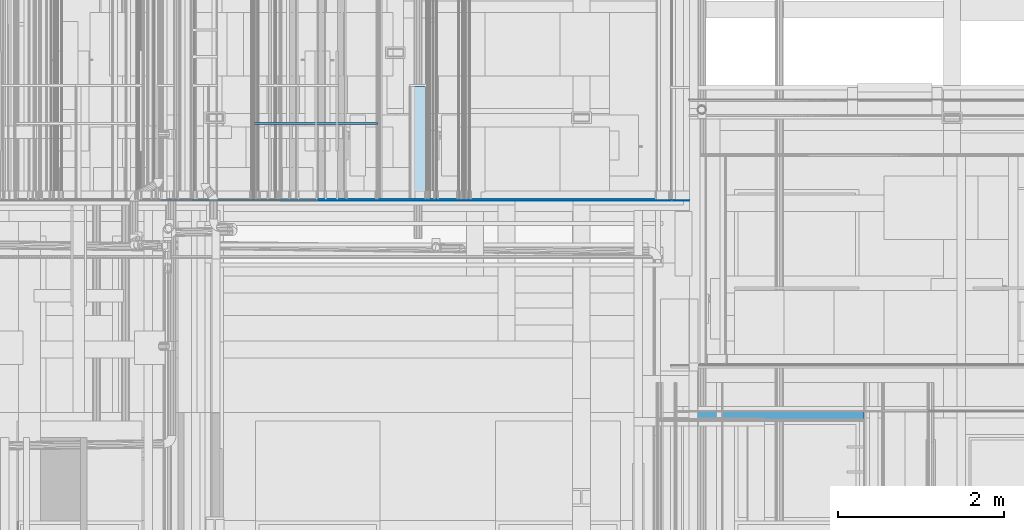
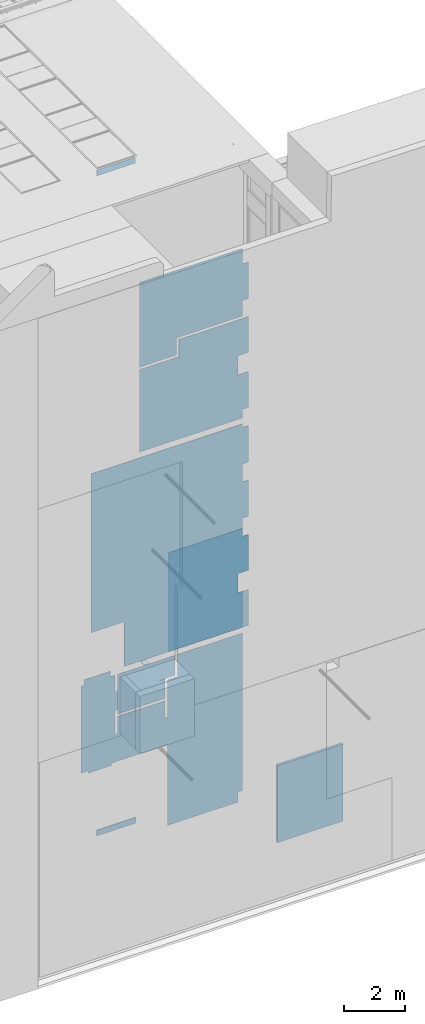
# One storey, part 246 of 583: 12 slabs.
"""IFC2X3 building model written with IfcOpenShell, lengths in metres."""

from ifc_helpers import new_model, entity, si_unit, converted_unit, derived_unit, money_unit, direction, frame, origin_with_axes, place, context, subcontext, project, spatial, faceted_brep, material, type_object, element, save


model = new_model("IFC2X3")

# Units and contexts
model_context = context("Model", 3, precision=1e-05, world=origin_with_axes(), true_north=direction((0.0, 1.0)))
body_context = subcontext(model_context, "Body", "Model", "MODEL_VIEW", scale=1.0)
ifc_project = project(units=[si_unit("LENGTHUNIT", "METRE"), si_unit("AREAUNIT", "SQUARE_METRE"), si_unit("VOLUMEUNIT", "CUBIC_METRE"), si_unit("ABSORBEDDOSEUNIT", "GRAY"), si_unit("AMOUNTOFSUBSTANCEUNIT", "MOLE"), si_unit("DOSEEQUIVALENTUNIT", "SIEVERT"), si_unit("ELECTRICCAPACITANCEUNIT", "FARAD"), si_unit("ELECTRICCHARGEUNIT", "COULOMB"), si_unit("ELECTRICCONDUCTANCEUNIT", "SIEMENS"), si_unit("ELECTRICCURRENTUNIT", "AMPERE"), si_unit("ELECTRICRESISTANCEUNIT", "OHM"), si_unit("ELECTRICVOLTAGEUNIT", "VOLT"), si_unit("ENERGYUNIT", "JOULE"), si_unit("FORCEUNIT", "NEWTON"), si_unit("FREQUENCYUNIT", "HERTZ"), si_unit("ILLUMINANCEUNIT", "LUX"), si_unit("INDUCTANCEUNIT", "HENRY"), si_unit("LUMINOUSFLUXUNIT", "LUMEN"), si_unit("LUMINOUSINTENSITYUNIT", "CANDELA"), si_unit("MAGNETICFLUXDENSITYUNIT", "TESLA"), si_unit("MAGNETICFLUXUNIT", "WEBER"), si_unit("MASSUNIT", "GRAM"), converted_unit("PLANEANGLEUNIT", "degree", entity("IfcReal", 0.0174532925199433), si_unit("PLANEANGLEUNIT", "RADIAN"), dimensions=[0, 0, 0, 0, 0, 0, 0]), si_unit("POWERUNIT", "WATT"), si_unit("PRESSUREUNIT", "PASCAL"), si_unit("RADIOACTIVITYUNIT", "BECQUEREL"), si_unit("SOLIDANGLEUNIT", "STERADIAN"), si_unit("THERMODYNAMICTEMPERATUREUNIT", "KELVIN"), si_unit("TIMEUNIT", "SECOND"), derived_unit("ACCELERATIONUNIT", [(si_unit("LENGTHUNIT", "METRE"), 1), (si_unit("TIMEUNIT", "SECOND"), -2)]), derived_unit("ANGULARVELOCITYUNIT", [(converted_unit("PLANEANGLEUNIT", "degree", entity("IfcReal", 0.0174532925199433), si_unit("PLANEANGLEUNIT", "RADIAN"), dimensions=[0, 0, 0, 0, 0, 0, 0]), 1), (si_unit("TIMEUNIT", "SECOND"), -1)]), derived_unit("CURVATUREUNIT", [(converted_unit("PLANEANGLEUNIT", "degree", entity("IfcReal", 0.0174532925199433), si_unit("PLANEANGLEUNIT", "RADIAN"), dimensions=[0, 0, 0, 0, 0, 0, 0]), 1), (si_unit("LENGTHUNIT", "METRE"), -1)]), derived_unit("DYNAMICVISCOSITYUNIT", [(si_unit("PRESSUREUNIT", "PASCAL"), 1), (si_unit("TIMEUNIT", "SECOND"), 1)]), derived_unit("HEATFLUXDENSITYUNIT", [(si_unit("POWERUNIT", "WATT"), 1), (si_unit("LENGTHUNIT", "METRE"), -2)]), derived_unit("HEATINGVALUEUNIT", [(si_unit("ENERGYUNIT", "JOULE"), 1), (si_unit("MASSUNIT", "GRAM"), -1)]), derived_unit("INTEGERCOUNTRATEUNIT", [(si_unit("TIMEUNIT", "SECOND"), -1)]), derived_unit("IONCONCENTRATIONUNIT", [(si_unit("MASSUNIT", "GRAM"), 1), (si_unit("VOLUMEUNIT", "CUBIC_METRE"), -1)]), derived_unit("ISOTHERMALMOISTURECAPACITYUNIT", [(si_unit("VOLUMEUNIT", "CUBIC_METRE"), 1), (si_unit("MASSUNIT", "GRAM"), -1)]), derived_unit("KINEMATICVISCOSITYUNIT", [(si_unit("AREAUNIT", "SQUARE_METRE"), 1), (si_unit("TIMEUNIT", "SECOND"), -1)]), derived_unit("LINEARFORCEUNIT", [(si_unit("FORCEUNIT", "NEWTON"), 1), (si_unit("LENGTHUNIT", "METRE"), -1)]), derived_unit("LINEARMOMENTUNIT", [(si_unit("FORCEUNIT", "NEWTON"), 1), (si_unit("LENGTHUNIT", "METRE"), -1)]), derived_unit("LINEARSTIFFNESSUNIT", [(si_unit("FORCEUNIT", "NEWTON"), 1), (si_unit("LENGTHUNIT", "METRE"), -1)]), derived_unit("LINEARVELOCITYUNIT", [(si_unit("LENGTHUNIT", "METRE"), 1), (si_unit("TIMEUNIT", "SECOND"), -1)]), derived_unit("LUMINOUSINTENSITYDISTRIBUTIONUNIT", [(si_unit("LUMINOUSINTENSITYUNIT", "CANDELA"), 1), (si_unit("LUMINOUSFLUXUNIT", "LUMEN"), -1)]), derived_unit("MASSDENSITYUNIT", [(si_unit("MASSUNIT", "GRAM"), 1), (si_unit("VOLUMEUNIT", "CUBIC_METRE"), -1)]), derived_unit("MASSFLOWRATEUNIT", [(si_unit("MASSUNIT", "GRAM"), 1), (si_unit("TIMEUNIT", "SECOND"), -1)]), derived_unit("MASSPERLENGTHUNIT", [(si_unit("MASSUNIT", "GRAM"), 1), (si_unit("LENGTHUNIT", "METRE"), -1)]), derived_unit("MODULUSOFELASTICITYUNIT", [(si_unit("FORCEUNIT", "NEWTON"), 1), (si_unit("AREAUNIT", "SQUARE_METRE"), -1)]), derived_unit("MODULUSOFLINEARSUBGRADEREACTIONUNIT", [(si_unit("FORCEUNIT", "NEWTON"), 1), (si_unit("LENGTHUNIT", "METRE"), -2)]), derived_unit("MODULUSOFROTATIONALSUBGRADEREACTIONUNIT", [(si_unit("FORCEUNIT", "NEWTON"), 1), (si_unit("LENGTHUNIT", "METRE"), 1)]), derived_unit("MODULUSOFSUBGRADEREACTIONUNIT", [(si_unit("FORCEUNIT", "NEWTON"), 1), (si_unit("VOLUMEUNIT", "CUBIC_METRE"), -1)]), derived_unit("MOISTUREDIFFUSIVITYUNIT", [(si_unit("VOLUMEUNIT", "CUBIC_METRE"), 1), (si_unit("TIMEUNIT", "SECOND"), -1)]), derived_unit("MOLECULARWEIGHTUNIT", [(si_unit("MASSUNIT", "GRAM"), 1), (si_unit("AMOUNTOFSUBSTANCEUNIT", "MOLE"), -1)]), derived_unit("PLANARFORCEUNIT", [(si_unit("FORCEUNIT", "NEWTON"), 1), (si_unit("LENGTHUNIT", "METRE"), -2)]), derived_unit("ROTATIONALFREQUENCYUNIT", [(si_unit("TIMEUNIT", "SECOND"), -1)]), derived_unit("ROTATIONALMASSUNIT", [(si_unit("MASSUNIT", "GRAM"), 1), (si_unit("LENGTHUNIT", "METRE"), 2)]), derived_unit("ROTATIONALSTIFFNESSUNIT", [(si_unit("FORCEUNIT", "NEWTON"), 1), (si_unit("LENGTHUNIT", "METRE"), 1), (converted_unit("PLANEANGLEUNIT", "degree", entity("IfcReal", 0.0174532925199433), si_unit("PLANEANGLEUNIT", "RADIAN"), dimensions=[0, 0, 0, 0, 0, 0, 0]), -1)]), derived_unit("SECTIONAREAINTEGRALUNIT", [(si_unit("LENGTHUNIT", "METRE"), 5)]), derived_unit("SECTIONMODULUSUNIT", [(si_unit("LENGTHUNIT", "METRE"), 3)]), derived_unit("SHEARMODULUSUNIT", [(si_unit("FORCEUNIT", "NEWTON"), 1), (si_unit("AREAUNIT", "SQUARE_METRE"), -1)]), derived_unit("SOUNDPOWERUNIT", [(si_unit("ENERGYUNIT", "JOULE"), 1), (si_unit("TIMEUNIT", "SECOND"), -1)]), derived_unit("SPECIFICHEATCAPACITYUNIT", [(si_unit("FORCEUNIT", "NEWTON"), 1), (si_unit("MASSUNIT", "GRAM"), -1), (si_unit("THERMODYNAMICTEMPERATUREUNIT", "KELVIN"), -1)]), derived_unit("TEMPERATUREGRADIENTUNIT", [(si_unit("THERMODYNAMICTEMPERATUREUNIT", "KELVIN"), 1), (si_unit("LENGTHUNIT", "METRE"), -1)]), derived_unit("THERMALADMITTANCEUNIT", [(si_unit("POWERUNIT", "WATT"), 1), (si_unit("AREAUNIT", "SQUARE_METRE"), -1), (si_unit("THERMODYNAMICTEMPERATUREUNIT", "KELVIN"), -1)]), derived_unit("THERMALCONDUCTANCEUNIT", [(si_unit("POWERUNIT", "WATT"), 1), (si_unit("LENGTHUNIT", "METRE"), -1), (si_unit("THERMODYNAMICTEMPERATUREUNIT", "KELVIN"), -1)]), derived_unit("THERMALEXPANSIONCOEFFICIENTUNIT", [(si_unit("THERMODYNAMICTEMPERATUREUNIT", "KELVIN"), -1)]), derived_unit("THERMALRESISTANCEUNIT", [(si_unit("AREAUNIT", "SQUARE_METRE"), 1), (si_unit("POWERUNIT", "WATT"), -1)]), derived_unit("THERMALTRANSMITTANCEUNIT", [(si_unit("POWERUNIT", "WATT"), 1), (si_unit("AREAUNIT", "SQUARE_METRE"), -1), (si_unit("THERMODYNAMICTEMPERATUREUNIT", "KELVIN"), -1)]), derived_unit("TORQUEUNIT", [(si_unit("FORCEUNIT", "NEWTON"), 1), (si_unit("LENGTHUNIT", "METRE"), 1)]), derived_unit("VAPORPERMEABILITYUNIT", [(si_unit("MASSUNIT", "GRAM"), 1), (si_unit("TIMEUNIT", "SECOND"), -1)]), derived_unit("VOLUMETRICFLOWRATEUNIT", [(si_unit("VOLUMEUNIT", "CUBIC_METRE"), 1), (si_unit("TIMEUNIT", "SECOND"), -1)]), derived_unit("WARPINGCONSTANTUNIT", [(si_unit("LENGTHUNIT", "METRE"), 6)]), derived_unit("WARPINGMOMENTUNIT", [(si_unit("FORCEUNIT", "NEWTON"), 1), (si_unit("LENGTHUNIT", "METRE"), 2)]), money_unit("GBP")], contexts=[model_context])

# Site, building, storey
site_placement = place(None, origin_with_axes())
site = spatial("IfcSite", under=ifc_project, at=site_placement, Name="Site", CompositionType="ELEMENT")
building_placement = place(site_placement, origin_with_axes())
building = spatial("IfcBuilding", under=site, at=building_placement, Name="Building01", CompositionType="ELEMENT")
storey_placement = place(building_placement, frame((0.0, 0.0, 20.78), z_axis=(0.0, 0.0, 1.0), x_axis=(1.0, 0.0, 0.0)))
storey = spatial("IfcBuildingStorey", under=building, at=storey_placement, Name="RL", CompositionType="ELEMENT", Elevation=20.78)

# Slabs
ifc_material_1 = material(Name="A_BSUK_ExpandedPolystyreneBoards")
slab_type_1 = type_object("IfcSlabType", Name="A-FloorsSlabs A_BSUK_Slabs", PredefinedType="FLOOR")
placement = place(storey_placement, frame((0.0, 0.0, -20.78), z_axis=(0.0, 0.0, 1.0), x_axis=(1.0, 0.0, 0.0)))
element("IfcSlab", 1, at=placement, inside=storey, type_object=slab_type_1, material=ifc_material_1, Name="A-FloorsSlabs A_BSUK_Slabs", ObjectType="CompoundSlabLeaf", context=body_context, shape_type="Brep", body=[
    faceted_brep([(10.087704, 5.15, 7.289669), (10.087704, 5.153, 7.289669), (14.582, 5.153, 7.289669), (14.582, 5.15, 7.289669), (10.087704, 5.15, 9.09), (10.087704, 5.153, 9.09), (9.200704, 5.15, 9.09), (9.200704, 5.153, 9.09), (8.82, 5.15, 9.09), (8.82, 5.153, 9.09), (8.82, 5.15, 12.893585), (8.82, 5.153, 12.893585), (8.82, 5.15, 15.483132), (8.82, 5.153, 15.483132), (14.582, 5.15, 15.483132), (14.582, 5.153, 15.483132), (14.582, 5.15, 15.335), (14.582, 5.153, 15.335), (14.8, 5.15, 15.335), (14.8, 5.153, 15.335), (14.8, 5.15, 13.865), (14.8, 5.153, 13.865), (14.582, 5.15, 13.865), (14.582, 5.153, 13.865), (14.582, 5.15, 13.145), (14.582, 5.153, 13.145), (14.8, 5.15, 13.145), (14.8, 5.153, 13.145), (14.8, 5.15, 11.675), (14.8, 5.153, 11.675), (14.582, 5.15, 11.675), (14.582, 5.153, 11.675), (14.582, 5.15, 10.955), (14.582, 5.153, 10.955), (14.8, 5.15, 10.955), (14.8, 5.153, 10.955), (14.8, 5.15, 9.508), (14.8, 5.153, 9.508), (14.402, 5.15, 9.508), (14.402, 5.153, 9.508), (14.402, 5.15, 8.742), (14.402, 5.153, 8.742), (14.8, 5.15, 8.742), (14.8, 5.153, 8.742), (14.8, 5.15, 7.295), (14.8, 5.153, 7.295), (14.582, 5.15, 7.295), (14.582, 5.153, 7.295)], [[[0, 1, 2, 3]], [[4, 5, 1, 0]], [[6, 7, 5, 4]], [[8, 9, 7, 6]], [[10, 11, 9, 8]], [[12, 13, 11, 10]], [[14, 15, 13, 12]], [[16, 17, 15, 14]], [[18, 19, 17, 16]], [[20, 21, 19, 18]], [[22, 23, 21, 20]], [[24, 25, 23, 22]], [[26, 27, 25, 24]], [[28, 29, 27, 26]], [[30, 31, 29, 28]], [[32, 33, 31, 30]], [[34, 35, 33, 32]], [[36, 37, 35, 34]], [[38, 39, 37, 36]], [[40, 41, 39, 38]], [[42, 43, 41, 40]], [[44, 45, 43, 42]], [[46, 47, 45, 44]], [[3, 2, 47, 46]], [[1, 5, 7, 9, 11, 13, 15, 17, 19, 21, 23, 25, 27, 29, 31, 33, 35, 37, 39, 41, 43, 45, 47, 2]], [[3, 46, 44, 42, 40, 38, 36, 34, 32, 30, 28, 26, 24, 22, 20, 18, 16, 14, 12, 10, 8, 6, 4, 0]]]),
])
ifc_material_2 = material(Name="A_BSUK_Parquet_Floor")
element("IfcSlab", 2, at=placement, inside=storey, type_object=slab_type_1, material=ifc_material_2, Name="A-FloorsSlabs A_BSUK_Slabs", ObjectType="CompoundSlabLeaf", context=body_context, shape_type="Brep", body=[
    faceted_brep([(9.550704, 5.153, 7.289669), (9.550704, 5.165, 7.289669), (8.550704, 5.165, 7.289669), (8.550704, 5.153, 7.289669), (9.550704, 5.153, 7.064669), (9.550704, 5.165, 7.064669), (9.73567, 5.153, 7.064669), (9.73567, 5.165, 7.064669), (9.73567, 5.153, 6.398669), (9.73567, 5.165, 6.398669), (9.83067, 5.153, 6.398669), (9.83067, 5.165, 6.398669), (9.83067, 5.153, 5.648669), (9.83067, 5.165, 5.648669), (9.73567, 5.153, 5.648669), (9.73567, 5.165, 5.648669), (9.73567, 5.153, 4.669669), (9.73567, 5.165, 4.669669), (9.83067, 5.153, 4.669669), (9.83067, 5.165, 4.669669), (9.83067, 5.153, 5.369669), (9.83067, 5.165, 5.369669), (11.63067, 5.153, 5.369669), (11.63067, 5.165, 5.369669), (11.63067, 5.153, 4.669669), (11.63067, 5.165, 4.669669), (11.72567, 5.153, 4.669669), (11.72567, 5.165, 4.669669), (11.72567, 5.153, 4.719669), (11.72567, 5.165, 4.719669), (11.72567, 5.153, 6.169669), (11.72567, 5.165, 6.169669), (12.11067, 5.153, 6.169669), (12.11067, 5.165, 6.169669), (12.11067, 5.153, 7.064669), (12.11067, 5.165, 7.064669), (14.582, 5.153, 7.064669), (14.582, 5.165, 7.064669), (14.582, 5.153, 6.574876), (14.582, 5.165, 6.574876), (14.582, 5.153, 5.105), (14.582, 5.165, 5.105), (14.582, 5.153, 4.385), (14.582, 5.165, 4.385), (14.582, 5.153, 2.915), (14.582, 5.165, 2.915), (14.582, 5.153, 2.195), (14.582, 5.165, 2.195), (14.582, 5.153, 0.725), (14.582, 5.165, 0.725), (14.402, 5.153, 0.725), (14.402, 5.165, 0.725), (14.402, 5.153, 0.318), (14.402, 5.165, 0.318), (11.72567, 5.153, 0.318), (11.72567, 5.165, 0.318), (11.72567, 5.153, 3.569669), (11.72567, 5.165, 3.569669), (9.600704, 5.153, 3.569669), (9.600704, 5.165, 3.569669), (9.600704, 5.153, 3.474669), (9.600704, 5.165, 3.474669), (8.700704, 5.153, 3.474669), (8.700704, 5.165, 3.474669), (8.700704, 5.153, 3.569669), (8.700704, 5.165, 3.569669), (8.43567, 5.153, 3.569669), (8.43567, 5.165, 3.569669), (8.43567, 5.153, 7.064669), (8.43567, 5.165, 7.064669), (8.550704, 5.153, 7.064669), (8.550704, 5.165, 7.064669)], [[[0, 1, 2, 3]], [[4, 5, 1, 0]], [[6, 7, 5, 4]], [[8, 9, 7, 6]], [[10, 11, 9, 8]], [[12, 13, 11, 10]], [[14, 15, 13, 12]], [[16, 17, 15, 14]], [[18, 19, 17, 16]], [[20, 21, 19, 18]], [[22, 23, 21, 20]], [[24, 25, 23, 22]], [[26, 27, 25, 24]], [[28, 29, 27, 26]], [[30, 31, 29, 28]], [[32, 33, 31, 30]], [[34, 35, 33, 32]], [[36, 37, 35, 34]], [[38, 39, 37, 36]], [[40, 41, 39, 38]], [[42, 43, 41, 40]], [[44, 45, 43, 42]], [[46, 47, 45, 44]], [[48, 49, 47, 46]], [[50, 51, 49, 48]], [[52, 53, 51, 50]], [[54, 55, 53, 52]], [[56, 57, 55, 54]], [[58, 59, 57, 56]], [[60, 61, 59, 58]], [[62, 63, 61, 60]], [[64, 65, 63, 62]], [[66, 67, 65, 64]], [[68, 69, 67, 66]], [[70, 71, 69, 68]], [[3, 2, 71, 70]], [[1, 5, 7, 9, 11, 13, 15, 17, 19, 21, 23, 25, 27, 29, 31, 33, 35, 37, 39, 41, 43, 45, 47, 49, 51, 53, 55, 57, 59, 61, 63, 65, 67, 69, 71, 2]], [[3, 70, 68, 66, 64, 62, 60, 58, 56, 54, 52, 50, 48, 46, 44, 42, 40, 38, 36, 34, 32, 30, 28, 26, 24, 22, 20, 18, 16, 14, 12, 10, 8, 6, 4, 0]]]),
])
ifc_material_3 = material(Name="A_BSUK_Ceramic_FloorTiles")
element("IfcSlab", 3, at=placement, inside=storey, type_object=slab_type_1, material=ifc_material_3, Name="A-FloorsSlabs A_BSUK_Slabs", ObjectType="CompoundSlabLeaf", context=body_context, shape_type="Brep", body=[
    faceted_brep([(10.53067, 5.153, 5.464669), (10.53067, 5.165, 5.464669), (11.63067, 5.165, 5.464669), (11.63067, 5.153, 5.464669), (9.83067, 5.153, 5.464669), (9.83067, 5.165, 5.464669), (9.83067, 5.153, 7.064669), (9.83067, 5.165, 7.064669), (12.01567, 5.153, 7.064669), (12.01567, 5.165, 7.064669), (12.01567, 5.153, 6.264669), (12.01567, 5.165, 6.264669), (11.63067, 5.153, 6.264669), (11.63067, 5.165, 6.264669)], [[[0, 1, 2, 3]], [[4, 5, 1, 0]], [[6, 7, 5, 4]], [[8, 9, 7, 6]], [[10, 11, 9, 8]], [[12, 13, 11, 10]], [[3, 2, 13, 12]], [[1, 5, 7, 9, 11, 13, 2]], [[3, 12, 10, 8, 6, 4, 0]]]),
])
element("IfcSlab", 4, at=placement, inside=storey, type_object=slab_type_1, material=ifc_material_2, Name="A-FloorsSlabs A_BSUK_Slabs", ObjectType="CompoundSlabLeaf", context=body_context, shape_type="Brep", body=[
    faceted_brep([(9.200704, 5.153, 9.285), (9.200704, 5.165, 9.285), (9.992662, 5.165, 9.285), (9.992662, 5.153, 9.285), (8.82, 5.153, 9.285), (8.82, 5.165, 9.285), (8.82, 5.153, 10.393585), (8.82, 5.165, 10.393585), (9.992704, 5.153, 10.393585), (9.992704, 5.165, 10.393585), (9.992704, 5.153, 10.309871), (9.992704, 5.165, 10.309871), (10.087704, 5.153, 10.309871), (10.087704, 5.165, 10.309871), (10.087704, 5.153, 10.393871), (10.087704, 5.165, 10.393871), (10.415, 5.153, 10.393871), (10.415, 5.165, 10.393871), (10.415, 5.153, 12.988585), (10.415, 5.165, 12.988585), (8.82, 5.153, 12.988585), (8.82, 5.165, 12.988585), (8.82, 5.153, 15.483132), (8.82, 5.165, 15.483132), (14.582, 5.153, 15.483132), (14.582, 5.165, 15.483132), (14.582, 5.153, 15.335), (14.582, 5.165, 15.335), (14.8, 5.153, 15.335), (14.8, 5.165, 15.335), (14.8, 5.153, 13.865), (14.8, 5.165, 13.865), (14.582, 5.153, 13.865), (14.582, 5.165, 13.865), (14.582, 5.153, 13.145), (14.582, 5.165, 13.145), (14.8, 5.153, 13.145), (14.8, 5.165, 13.145), (14.8, 5.153, 11.675), (14.8, 5.165, 11.675), (14.582, 5.153, 11.675), (14.582, 5.165, 11.675), (14.582, 5.153, 11.375), (14.582, 5.165, 11.375), (11.668124, 5.153, 11.375), (11.668124, 5.165, 11.375), (11.668124, 5.153, 10.611), (11.668124, 5.165, 10.611), (11.763124, 5.153, 10.611), (11.763124, 5.165, 10.611), (11.763124, 5.153, 9.711), (11.763124, 5.165, 9.711), (11.668124, 5.153, 9.711), (11.668124, 5.165, 9.711), (11.668124, 5.153, 8.995), (11.668124, 5.165, 8.995), (10.087704, 5.153, 8.995), (10.087704, 5.165, 8.995), (10.087704, 5.153, 9.09), (10.087704, 5.165, 9.09), (10.087704, 5.153, 9.559871), (10.087704, 5.165, 9.559871), (9.992704, 5.153, 9.559871), (9.992704, 5.165, 9.559871)], [[[0, 1, 2, 3]], [[4, 5, 1, 0]], [[6, 7, 5, 4]], [[8, 9, 7, 6]], [[10, 11, 9, 8]], [[12, 13, 11, 10]], [[14, 15, 13, 12]], [[16, 17, 15, 14]], [[18, 19, 17, 16]], [[20, 21, 19, 18]], [[22, 23, 21, 20]], [[24, 25, 23, 22]], [[26, 27, 25, 24]], [[28, 29, 27, 26]], [[30, 31, 29, 28]], [[32, 33, 31, 30]], [[34, 35, 33, 32]], [[36, 37, 35, 34]], [[38, 39, 37, 36]], [[40, 41, 39, 38]], [[42, 43, 41, 40]], [[44, 45, 43, 42]], [[46, 47, 45, 44]], [[48, 49, 47, 46]], [[50, 51, 49, 48]], [[52, 53, 51, 50]], [[54, 55, 53, 52]], [[56, 57, 55, 54]], [[58, 59, 57, 56]], [[60, 61, 59, 58]], [[62, 63, 61, 60]], [[3, 2, 63, 62]], [[1, 5, 7, 9, 11, 13, 15, 17, 19, 21, 23, 25, 27, 29, 31, 33, 35, 37, 39, 41, 43, 45, 47, 49, 51, 53, 55, 57, 59, 61, 63, 2]], [[3, 62, 60, 58, 56, 54, 52, 50, 48, 46, 44, 42, 40, 38, 36, 34, 32, 30, 28, 26, 24, 22, 20, 18, 16, 14, 12, 10, 8, 6, 4, 0]]]),
])
element("IfcSlab", 5, at=placement, inside=storey, type_object=slab_type_1, material=ifc_material_2, Name="A-FloorsSlabs A_BSUK_Slabs", ObjectType="CompoundSlabLeaf", context=body_context, shape_type="Brep", body=[
    faceted_brep([(10.087704, 5.153, 7.289669), (10.087704, 5.165, 7.289669), (11.668124, 5.165, 7.289669), (11.668124, 5.153, 7.289669), (10.087704, 5.153, 8.995), (10.087704, 5.165, 8.995), (11.668124, 5.153, 8.995), (11.668124, 5.165, 8.995)], [[[0, 1, 2, 3]], [[4, 5, 1, 0]], [[6, 7, 5, 4]], [[3, 2, 7, 6]], [[1, 5, 7, 2]], [[3, 6, 4, 0]]]),
])
ifc_material_4 = material(Name="A_BSUK_Carpet-Pile")
element("IfcSlab", 6, at=placement, inside=storey, type_object=slab_type_1, material=ifc_material_4, Name="A-FloorsSlabs A_BSUK_Slabs", ObjectType="CompoundSlabLeaf", context=body_context, shape_type="Brep", body=[
    faceted_brep([(11.763124, 5.153, 7.289669), (11.763124, 5.165, 7.289669), (14.582, 5.165, 7.289669), (14.582, 5.153, 7.289669), (11.763124, 5.153, 8.995), (11.763124, 5.165, 8.995), (11.763124, 5.153, 11.28), (11.763124, 5.165, 11.28), (14.582, 5.153, 11.28), (14.582, 5.165, 11.28), (14.582, 5.153, 10.955), (14.582, 5.165, 10.955), (14.8, 5.153, 10.955), (14.8, 5.165, 10.955), (14.8, 5.153, 9.508), (14.8, 5.165, 9.508), (14.402, 5.153, 9.508), (14.402, 5.165, 9.508), (14.402, 5.153, 8.742), (14.402, 5.165, 8.742), (14.582, 5.153, 8.742), (14.582, 5.165, 8.742), (14.582, 5.153, 7.295), (14.582, 5.165, 7.295)], [[[0, 1, 2, 3]], [[4, 5, 1, 0]], [[6, 7, 5, 4]], [[8, 9, 7, 6]], [[10, 11, 9, 8]], [[12, 13, 11, 10]], [[14, 15, 13, 12]], [[16, 17, 15, 14]], [[18, 19, 17, 16]], [[20, 21, 19, 18]], [[22, 23, 21, 20]], [[3, 2, 23, 22]], [[1, 5, 7, 9, 11, 13, 15, 17, 19, 21, 23, 2]], [[3, 22, 20, 18, 16, 14, 12, 10, 8, 6, 4, 0]]]),
])
element("IfcSlab", 7, at=placement, inside=storey, type_object=slab_type_1, material=ifc_material_4, Name="A-FloorsSlabs A_BSUK_Slabs", ObjectType="CompoundSlabLeaf", context=body_context, shape_type="Brep", body=[
    faceted_brep([(10.665, 5.153, 15.708132), (10.665, 5.165, 15.708132), (14.582, 5.165, 15.708132), (14.582, 5.153, 15.708132), (10.665, 5.153, 19.025284), (10.665, 5.165, 19.025284), (12.159378, 5.153, 19.025284), (12.159378, 5.165, 19.025284), (12.159378, 5.153, 19.715), (12.159378, 5.165, 19.715), (14.8, 5.153, 19.715), (14.8, 5.165, 19.715), (14.8, 5.153, 18.268), (14.8, 5.165, 18.268), (14.402, 5.153, 18.268), (14.402, 5.165, 18.268), (14.402, 5.153, 17.502), (14.402, 5.165, 17.502), (14.8, 5.153, 17.502), (14.8, 5.165, 17.502), (14.8, 5.153, 16.055), (14.8, 5.165, 16.055), (14.582, 5.153, 16.055), (14.582, 5.165, 16.055)], [[[0, 1, 2, 3]], [[4, 5, 1, 0]], [[6, 7, 5, 4]], [[8, 9, 7, 6]], [[10, 11, 9, 8]], [[12, 13, 11, 10]], [[14, 15, 13, 12]], [[16, 17, 15, 14]], [[18, 19, 17, 16]], [[20, 21, 19, 18]], [[22, 23, 21, 20]], [[3, 2, 23, 22]], [[1, 5, 7, 9, 11, 13, 15, 17, 19, 21, 23, 2]], [[3, 22, 20, 18, 16, 14, 12, 10, 8, 6, 4, 0]]]),
])
element("IfcSlab", 8, at=placement, inside=storey, type_object=slab_type_1, material=ifc_material_4, Name="A-FloorsSlabs A_BSUK_Slabs", ObjectType="CompoundSlabLeaf", context=body_context, shape_type="Brep", body=[
    faceted_brep([(12.064378, 5.153, 19.81), (12.064378, 5.165, 19.81), (14.582, 5.165, 19.81), (14.582, 5.153, 19.81), (12.064378, 5.153, 19.120284), (12.064378, 5.165, 19.120284), (10.665, 5.153, 19.120284), (10.665, 5.165, 19.120284), (10.665, 5.153, 22.53), (10.665, 5.165, 22.53), (14.582, 5.153, 22.53), (14.582, 5.165, 22.53), (14.582, 5.153, 21.905), (14.582, 5.165, 21.905), (14.8, 5.153, 21.905), (14.8, 5.165, 21.905), (14.8, 5.153, 20.435), (14.8, 5.165, 20.435), (14.582, 5.153, 20.435), (14.582, 5.165, 20.435)], [[[0, 1, 2, 3]], [[4, 5, 1, 0]], [[6, 7, 5, 4]], [[8, 9, 7, 6]], [[10, 11, 9, 8]], [[12, 13, 11, 10]], [[14, 15, 13, 12]], [[16, 17, 15, 14]], [[18, 19, 17, 16]], [[3, 2, 19, 18]], [[1, 5, 7, 9, 11, 13, 15, 17, 19, 2]], [[3, 18, 16, 14, 12, 10, 8, 6, 4, 0]]]),
])
ifc_material_5 = material(Name="A_BSUK_Ceramic_WallTiles")
element("IfcSlab", 9, at=placement, inside=storey, type_object=slab_type_1, material=ifc_material_5, Name="A-FloorsSlabs A_BSUK_Slabs", ObjectType="CompoundSlabLeaf", context=body_context, shape_type="Brep", body=[
    faceted_brep([(11.43067, 6.525, 6.239669), (11.43067, 6.525, 6.264669), (11.63067, 6.525, 6.264669), (11.63067, 6.525, 6.239669), (11.430672, 5.15, 6.239669), (11.430672, 5.15, 6.264669), (11.63067, 5.15, 6.239669), (11.63067, 5.15, 6.264669)], [[[0, 1, 2, 3]], [[4, 5, 1, 0]], [[6, 7, 5, 4]], [[3, 2, 7, 6]], [[1, 5, 7, 2]], [[3, 6, 4, 0]]]),
])
ifc_material_6 = material(Name="A_BSUK_Timber_Miscellaneous")
element("IfcSlab", 10, at=placement, inside=storey, type_object=slab_type_1, material=ifc_material_6, Name="A-FloorsSlabs A_BSUK_Slabs", ObjectType="CompoundSlabLeaf", context=body_context, shape_type="Brep", body=[
    faceted_brep([(9.56218, 6.065, 26.88), (9.56218, 6.09, 26.88), (9.56218, 6.09, 26.646998), (9.56218, 6.065, 26.646998), (11.03218, 6.065, 26.88), (11.03218, 6.09, 26.88), (11.03218, 6.065, 26.647), (11.03218, 6.09, 26.647)], [[[0, 1, 2, 3]], [[4, 5, 1, 0]], [[6, 7, 5, 4]], [[3, 2, 7, 6]], [[1, 5, 7, 2]], [[3, 6, 4, 0]]]),
])
element("IfcSlab", 11, at=placement, inside=storey, type_object=slab_type_1, material=ifc_material_6, Name="A-FloorsSlabs A_BSUK_Slabs", ObjectType="CompoundSlabLeaf", context=body_context, shape_type="Brep", body=[
    faceted_brep([(9.56218, 6.065, 0.333), (9.56218, 6.09, 0.333), (9.56218, 6.09, 0.099998), (9.56218, 6.065, 0.099998), (11.055, 6.065, 0.333), (11.055, 6.09, 0.333), (11.055, 6.065, 0.1), (11.055, 6.09, 0.1)], [[[0, 1, 2, 3]], [[4, 5, 1, 0]], [[6, 7, 5, 4]], [[3, 2, 7, 6]], [[1, 5, 7, 2]], [[3, 6, 4, 0]]]),
])
slab_type_2 = type_object("IfcSlabType", Name="A-FloorsSlabs A_BSUK_ExpandedPolystyreneBoards", PredefinedType="FLOOR")
element("IfcSlab", 12, at=placement, inside=storey, type_object=slab_type_2, material=ifc_material_1, Name="A-FloorsSlabs A_BSUK_ExpandedPolystyreneBoards", ObjectType="CompoundSlabLeaf", context=body_context, shape_type="Brep", body=[
    faceted_brep([(16.893628, 2.525, 3.380525), (16.893628, 2.625, 3.380525), (14.4, 2.625, 3.380525), (14.4, 2.525, 3.380525), (16.893647, 2.525, 0.280851), (16.893647, 2.625, 0.280851), (14.397504, 2.525, 0.280757), (14.397504, 2.625, 0.280757)], [[[0, 1, 2, 3]], [[4, 5, 1, 0]], [[6, 7, 5, 4]], [[3, 2, 7, 6]], [[1, 5, 7, 2]], [[3, 6, 4, 0]]]),
])

save(model, "model.ifc")
